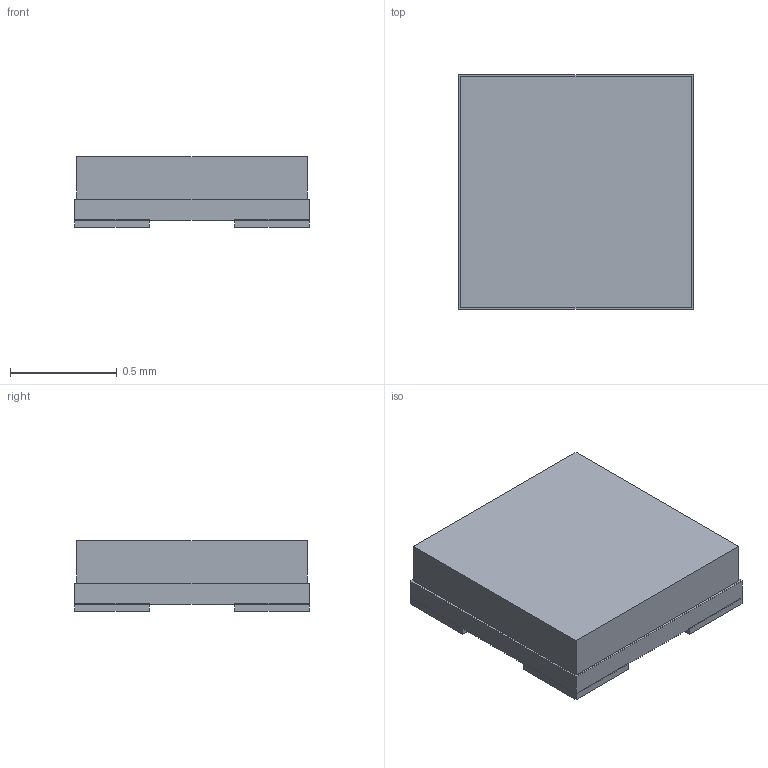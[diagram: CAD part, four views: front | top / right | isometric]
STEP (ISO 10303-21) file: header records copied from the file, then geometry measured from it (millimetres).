
FILE_DESCRIPTION(('Open CASCADE Model'),'2;1');
FILE_NAME('Open CASCADE Shape Model','2026-11-26T16:49:51',('Author'),( 'Open CASCADE'),'Open CASCADE STEP processor 8.0','Open CASCADE 8.0' ,'Unknown');
FILE_SCHEMA(('AUTOMOTIVE_DESIGN { 1 0 10303 214 1 1 1 1 }'));
Length unit declared in the file: millimetre
Products named in the file (6): Ceramic base; Optical window; Terminal
Bounding box: 1.1 x 1.1 x 0.33 mm (x, y, z)
Volume: 0.4 mm3; surface area: 7.2 mm2
Topology: 6 solids, 6 shells, 36 faces, 72 edges, 48 vertices
Faces by surface type: plane 36
Entity records: 1965 total; most frequent: CARTESIAN_POINT 301, DIRECTION 290, LINE 216, VECTOR 216, ORIENTED_EDGE 144, PCURVE 144, DEFINITIONAL_REPRESENTATION 144, EDGE_CURVE 72
